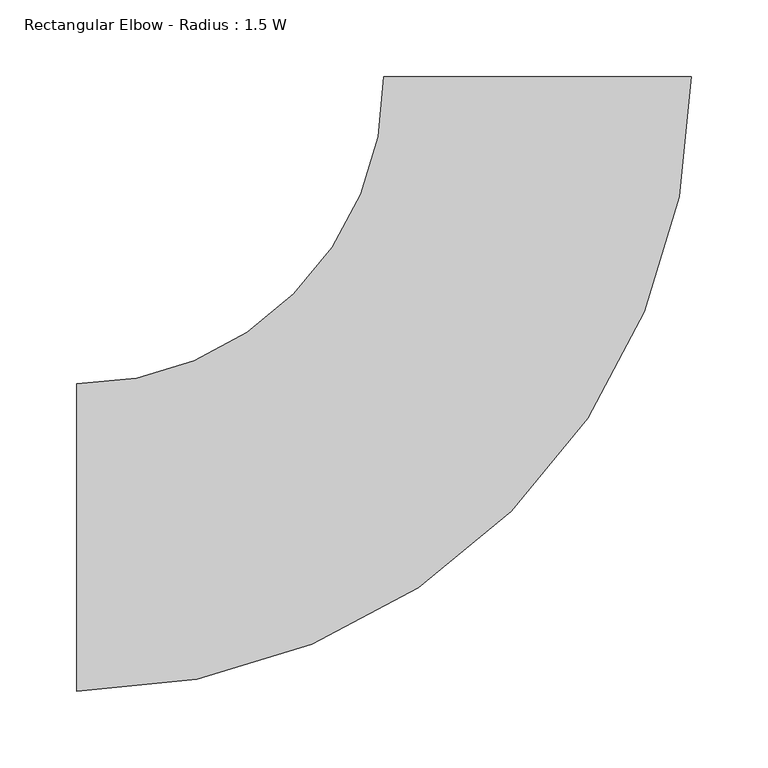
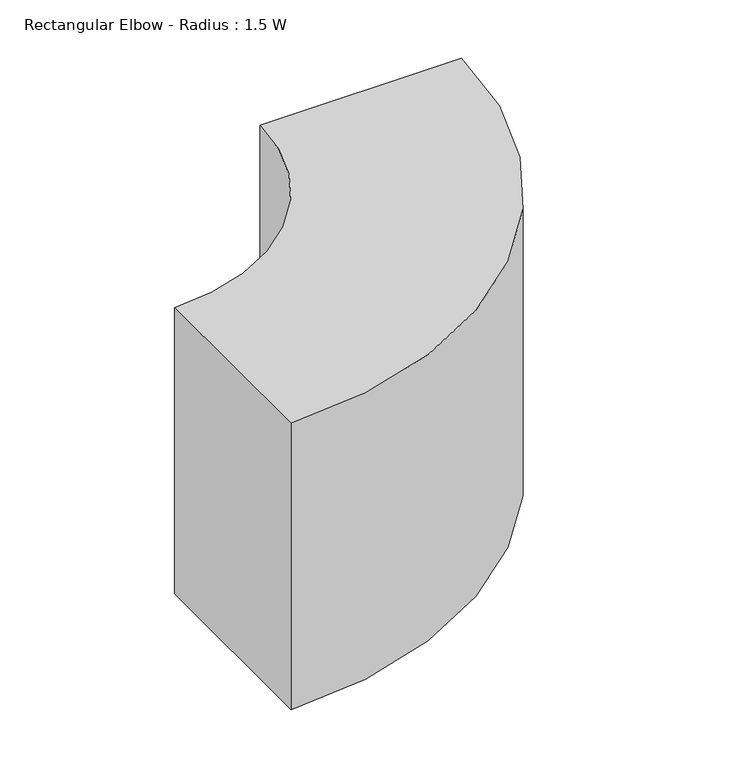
"""IFC4 building model written with IfcOpenShell, lengths in millimetres: duct fitting geometry, Rectangular Elbow - Radius : 1.5 W."""

from ifc_helpers import new_model, si_unit, point, frame, frame_2d, origin, place, context, project, spatial, polyline, circle_curve, trimmed, segment, composite_curve, outline, extrude, source, transform, mapped, element, save


def rectangular_elbow_radius_1_5_w_bef65fd4(model_context):
    return source(origin(), model_context, "Body", "SweptSolid", [
        extrude(outline(composite_curve([segment(trimmed(circle_curve(frame_2d((-300.0, 300.0)), 400.0), [point((100.0, 300.0))], [point((-300.0, -100.0))], False, "CARTESIAN"), True, "CONTINUOUS"), segment(polyline([(-300.0, -100.0), (-300.0, 100.0)]), True, "CONTINUOUS"), segment(trimmed(circle_curve(frame_2d((-300.0, 300.0)), 200.0), [point((-300.0, 100.0))], [point((-100.0, 300.0))], True, "CARTESIAN"), True, "CONTINUOUS"), segment(polyline([(-100.0, 300.0), (100.0, 300.0)]), True, "CONTINUOUS")], self_intersect=False)), frame((0.0, 0.0, -150.0), z_axis=(0.0, 0.0, 1.0), x_axis=(1.0, 0.0, 0.0)), (0.0, 0.0, 1.0), 300.0),
    ])


if __name__ == "__main__":
    model = new_model("IFC4")
    model_context = context("Model", 3, world=origin())
    ifc_project = project(units=[si_unit("LENGTHUNIT", "METRE", prefix="MILLI")], contexts=[model_context])
    site = spatial("IfcSite", under=ifc_project)
    building = spatial("IfcBuilding", under=site)
    placement = place(None, origin())
    rectangular_elbow_radius_1_5_w_shape = rectangular_elbow_radius_1_5_w_bef65fd4(model_context)
    element("IfcDuctFitting", 1, ObjectType="Rectangular Elbow - Radius : 1.5 W", at=placement, inside=building, context=model_context, shape_type="MappedRepresentation", body=[
        mapped(rectangular_elbow_radius_1_5_w_shape, transform((0.0, 0.0, 0.0), x_axis=(1.0, 0.0, 0.0), y_axis=(0.0, 1.0, 0.0), z_axis=(0.0, 0.0, 1.0))),
    ])
    save(model, "model.ifc")
